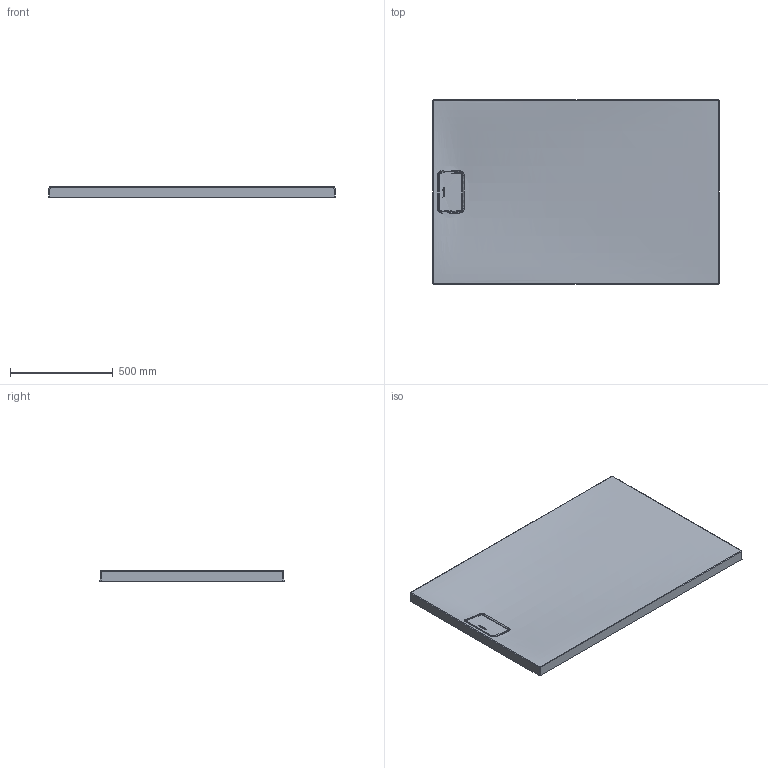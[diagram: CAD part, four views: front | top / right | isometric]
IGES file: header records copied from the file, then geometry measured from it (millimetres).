
Global section: file name: No Iges File Name specified; native system: Autodesk Inventor 2011; preprocessor: AutoDesk Inventor Iges Exporter R2011; author: Administrator; date: 20150623.083156; units: millimetre
Bounding box: 1398 x 898 x 50.03 mm (x, y, z)
Volume: 16638940.1 mm3; surface area: 3117414.8 mm2
Topology: 2 solids, 2 shells, 987 faces, 2484 edges, 1526 vertices
Faces by surface type: bspline 438, plane 299, revolution 112, cylinder 111, torus 14, sphere 10, cone 3
